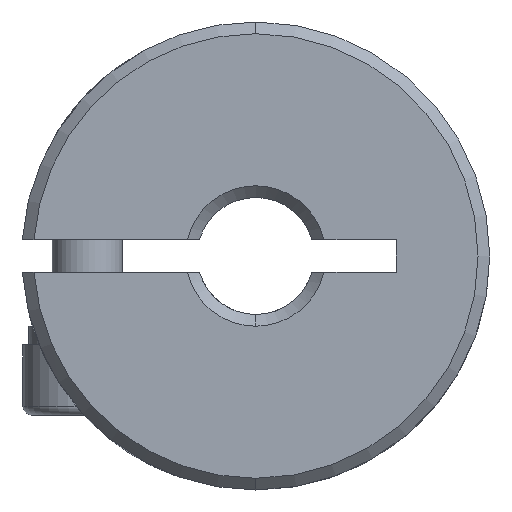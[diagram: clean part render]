
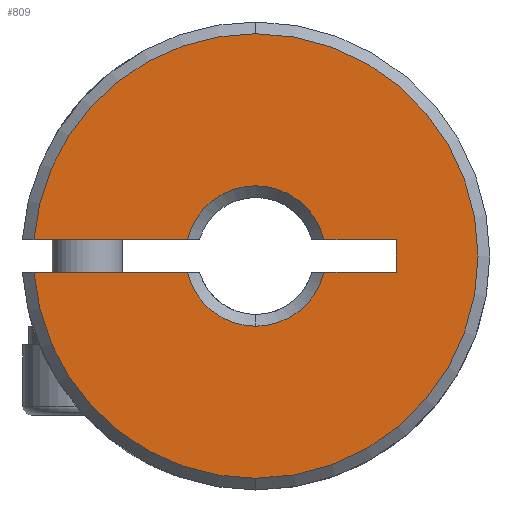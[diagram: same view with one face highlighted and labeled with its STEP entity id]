
A CAD part, front view. The second image highlights one B-rep face of the part: STEP entity #809.
In plain terms, the highlighted planar face has unit normal (0, -1, 0).
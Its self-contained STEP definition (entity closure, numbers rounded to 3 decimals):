
#72 = LINE ( 'NONE', #594, #3164 ) ;
#106 = DIRECTION ( 'NONE',  ( -1., 0., 0. ) ) ;
#132 = CARTESIAN_POINT ( 'NONE',  ( 2.917, 0.25, 0.7 ) ) ;
#153 = ORIENTED_EDGE ( 'NONE', *, *, #3278, .T. ) ;
#166 = CARTESIAN_POINT ( 'NONE',  ( 6., 0.25, -0.7 ) ) ;
#299 = DIRECTION ( 'NONE',  ( 0., -1., 0. ) ) ;
#344 = EDGE_CURVE ( 'NONE', #838, #3056, #2854, .T. ) ;
#388 = VERTEX_POINT ( 'NONE', #788 ) ;
#395 = DIRECTION ( 'NONE',  ( 0., 0., 1. ) ) ;
#448 = CIRCLE ( 'NONE', #1362, 3. ) ;
#470 = CIRCLE ( 'NONE', #627, 9.5 ) ;
#500 = VECTOR ( 'NONE', #3060, 1000. ) ;
#551 = VERTEX_POINT ( 'NONE', #2475 ) ;
#562 = ORIENTED_EDGE ( 'NONE', *, *, #870, .T. ) ;
#567 = LINE ( 'NONE', #2701, #3589 ) ;
#569 = EDGE_CURVE ( 'NONE', #388, #551, #2801, .T. ) ;
#594 = CARTESIAN_POINT ( 'NONE',  ( 6., 0.25, 0.7 ) ) ;
#627 = AXIS2_PLACEMENT_3D ( 'NONE', #2303, #3182, #863 ) ;
#629 = ORIENTED_EDGE ( 'NONE', *, *, #1045, .F. ) ;
#650 = EDGE_CURVE ( 'NONE', #907, #3056, #3337, .T. ) ;
#665 = DIRECTION ( 'NONE',  ( 0., 0., 1. ) ) ;
#788 = CARTESIAN_POINT ( 'NONE',  ( -9.474, 0.25, -0.7 ) ) ;
#794 = EDGE_CURVE ( 'NONE', #3161, #3579, #470, .T. ) ;
#809 = ADVANCED_FACE ( 'NONE', ( #1873 ), #2246, .F. ) ;
#838 = VERTEX_POINT ( 'NONE', #2318 ) ;
#851 = CARTESIAN_POINT ( 'NONE',  ( 6., 0.25, 0.7 ) ) ;
#853 = CARTESIAN_POINT ( 'NONE',  ( 6., 0.25, -0.7 ) ) ;
#863 = DIRECTION ( 'NONE',  ( 0., 0., 1. ) ) ;
#870 = EDGE_CURVE ( 'NONE', #388, #1490, #943, .T. ) ;
#871 = DIRECTION ( 'NONE',  ( 0., 0., 1. ) ) ;
#901 = CARTESIAN_POINT ( 'NONE',  ( 0., 0.25, -3. ) ) ;
#907 = VERTEX_POINT ( 'NONE', #2345 ) ;
#911 = VERTEX_POINT ( 'NONE', #166 ) ;
#943 = CIRCLE ( 'NONE', #1016, 9.5 ) ;
#1016 = AXIS2_PLACEMENT_3D ( 'NONE', #3211, #299, #2916 ) ;
#1045 = EDGE_CURVE ( 'NONE', #907, #3579, #567, .T. ) ;
#1081 = AXIS2_PLACEMENT_3D ( 'NONE', #1121, #2309, #3174 ) ;
#1098 = CARTESIAN_POINT ( 'NONE',  ( 2.917, 0.25, -0.7 ) ) ;
#1121 = CARTESIAN_POINT ( 'NONE',  ( 0., 0.25, 0. ) ) ;
#1173 = VECTOR ( 'NONE', #2349, 1000. ) ;
#1247 = DIRECTION ( 'NONE',  ( 0., 1., 0. ) ) ;
#1285 = LINE ( 'NONE', #3631, #500 ) ;
#1362 = AXIS2_PLACEMENT_3D ( 'NONE', #3311, #1247, #395 ) ;
#1490 = VERTEX_POINT ( 'NONE', #2232 ) ;
#1497 = VECTOR ( 'NONE', #2636, 1000. ) ;
#1521 = ORIENTED_EDGE ( 'NONE', *, *, #344, .F. ) ;
#1541 = DIRECTION ( 'NONE',  ( 0., -1., 0. ) ) ;
#1572 = ORIENTED_EDGE ( 'NONE', *, *, #1802, .F. ) ;
#1617 = VERTEX_POINT ( 'NONE', #901 ) ;
#1622 = ORIENTED_EDGE ( 'NONE', *, *, #650, .T. ) ;
#1782 = ORIENTED_EDGE ( 'NONE', *, *, #2886, .T. ) ;
#1802 = EDGE_CURVE ( 'NONE', #911, #838, #72, .T. ) ;
#1873 = FACE_OUTER_BOUND ( 'NONE', #3165, .T. ) ;
#1922 = ORIENTED_EDGE ( 'NONE', *, *, #2281, .T. ) ;
#2054 = AXIS2_PLACEMENT_3D ( 'NONE', #2287, #2539, #2550 ) ;
#2138 = CARTESIAN_POINT ( 'NONE',  ( 0., 0.25, 0. ) ) ;
#2232 = CARTESIAN_POINT ( 'NONE',  ( 0., 0.25, -9.5 ) ) ;
#2235 = CIRCLE ( 'NONE', #3010, 9.5 ) ;
#2246 = PLANE ( 'NONE',  #2054 ) ;
#2281 = EDGE_CURVE ( 'NONE', #1617, #551, #3701, .T. ) ;
#2287 = CARTESIAN_POINT ( 'NONE',  ( -50., 0.25, 12. ) ) ;
#2303 = CARTESIAN_POINT ( 'NONE',  ( 0., 0.25, 0. ) ) ;
#2309 = DIRECTION ( 'NONE',  ( 0., 1., 0. ) ) ;
#2314 = AXIS2_PLACEMENT_3D ( 'NONE', #2138, #2479, #3041 ) ;
#2318 = CARTESIAN_POINT ( 'NONE',  ( 6., 0.25, 0.7 ) ) ;
#2345 = CARTESIAN_POINT ( 'NONE',  ( -2.917, 0.25, 0.7 ) ) ;
#2349 = DIRECTION ( 'NONE',  ( 1., 0., 0. ) ) ;
#2390 = EDGE_CURVE ( 'NONE', #2713, #911, #1285, .T. ) ;
#2407 = CARTESIAN_POINT ( 'NONE',  ( 0., 0.25, 0. ) ) ;
#2475 = CARTESIAN_POINT ( 'NONE',  ( -2.917, 0.25, -0.7 ) ) ;
#2479 = DIRECTION ( 'NONE',  ( 0., 1., 0. ) ) ;
#2539 = DIRECTION ( 'NONE',  ( 0., 1., 0. ) ) ;
#2550 = DIRECTION ( 'NONE',  ( 0., 0., 1. ) ) ;
#2636 = DIRECTION ( 'NONE',  ( -1., 0., 0. ) ) ;
#2701 = CARTESIAN_POINT ( 'NONE',  ( 6., 0.25, 0.7 ) ) ;
#2713 = VERTEX_POINT ( 'NONE', #1098 ) ;
#2801 = LINE ( 'NONE', #853, #1173 ) ;
#2854 = LINE ( 'NONE', #851, #1497 ) ;
#2886 = EDGE_CURVE ( 'NONE', #2713, #1617, #448, .T. ) ;
#2916 = DIRECTION ( 'NONE',  ( 0., 0., 1. ) ) ;
#2983 = ORIENTED_EDGE ( 'NONE', *, *, #569, .F. ) ;
#3010 = AXIS2_PLACEMENT_3D ( 'NONE', #2407, #1541, #665 ) ;
#3041 = DIRECTION ( 'NONE',  ( 0., 0., 1. ) ) ;
#3056 = VERTEX_POINT ( 'NONE', #132 ) ;
#3060 = DIRECTION ( 'NONE',  ( 1., 0., 0. ) ) ;
#3161 = VERTEX_POINT ( 'NONE', #3677 ) ;
#3164 = VECTOR ( 'NONE', #871, 1000. ) ;
#3165 = EDGE_LOOP ( 'NONE', ( #2983, #562, #153, #3238, #629, #1622, #1521, #1572, #3658, #1782, #1922 ) ) ;
#3174 = DIRECTION ( 'NONE',  ( 0., 0., 1. ) ) ;
#3182 = DIRECTION ( 'NONE',  ( 0., -1., 0. ) ) ;
#3211 = CARTESIAN_POINT ( 'NONE',  ( 0., 0.25, 0. ) ) ;
#3238 = ORIENTED_EDGE ( 'NONE', *, *, #794, .T. ) ;
#3278 = EDGE_CURVE ( 'NONE', #1490, #3161, #2235, .T. ) ;
#3311 = CARTESIAN_POINT ( 'NONE',  ( 0., 0.25, 0. ) ) ;
#3337 = CIRCLE ( 'NONE', #1081, 3. ) ;
#3549 = CARTESIAN_POINT ( 'NONE',  ( -9.474, 0.25, 0.7 ) ) ;
#3579 = VERTEX_POINT ( 'NONE', #3549 ) ;
#3589 = VECTOR ( 'NONE', #106, 1000. ) ;
#3631 = CARTESIAN_POINT ( 'NONE',  ( 6., 0.25, -0.7 ) ) ;
#3658 = ORIENTED_EDGE ( 'NONE', *, *, #2390, .F. ) ;
#3677 = CARTESIAN_POINT ( 'NONE',  ( 0., 0.25, 9.5 ) ) ;
#3701 = CIRCLE ( 'NONE', #2314, 3. ) ;
